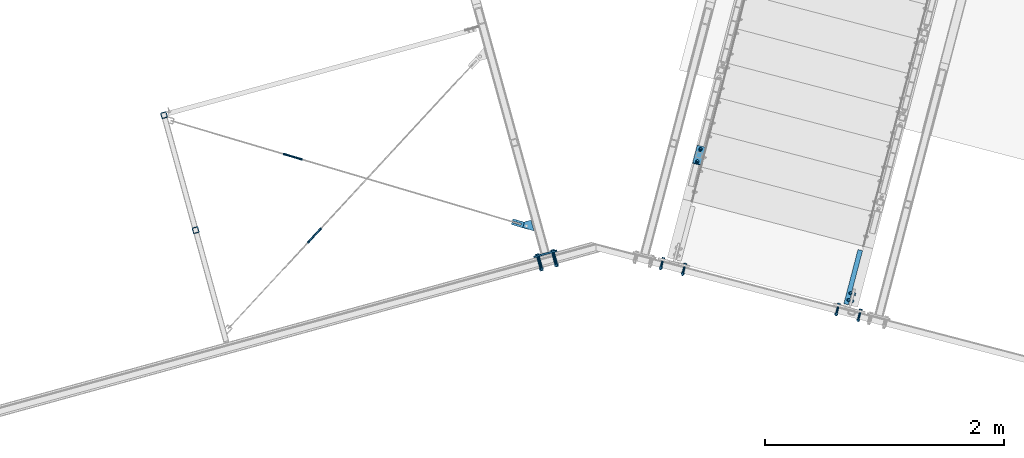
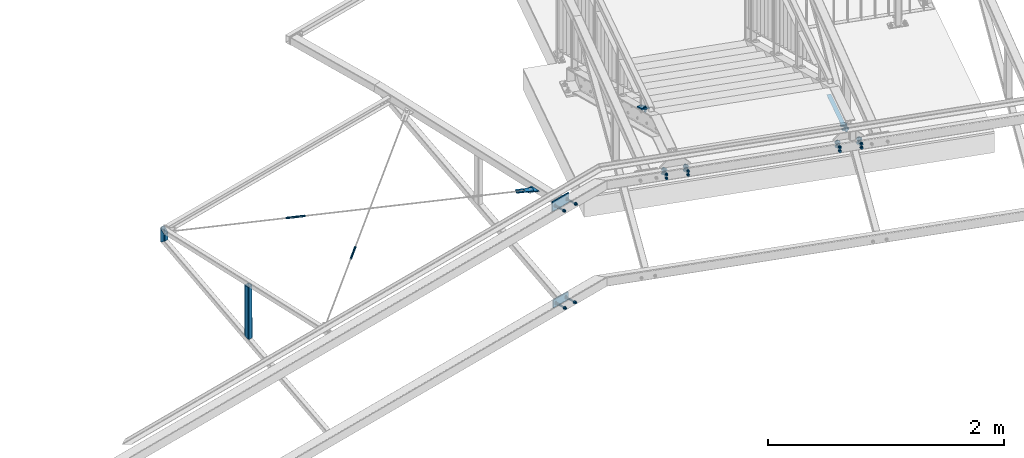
# One storey, part 87 of 169: 10 discrete accessories, 6 mechanical fasteners, 8 elements without a shape of their own.
"""IFC2X3 building model written with IfcOpenShell, lengths in millimetres."""

from ifc_helpers import new_model, si_unit, frame, frame_2d, origin_with_axes, origin_2d_with_axis, place, context, subcontext, project, spatial, polyline, circle_curve, parameter, trimmed, segment, composite_curve, rectangle, hollow_rectangle, circle, hollow_circle, l_section, outline, extrude, boolean, clip, halfspace, source, transform, mapped, material, type_object, element, aggregate, save


model = new_model("IFC2X3")

# Units and contexts
model_context = context("Model", 3, precision=1e-05, world=origin_with_axes())
body_context = subcontext(model_context, "Body", "Model", "MODEL_VIEW")
ifc_project = project(units=[si_unit("LENGTHUNIT", "METRE", prefix="MILLI"), si_unit("AREAUNIT", "SQUARE_METRE"), si_unit("VOLUMEUNIT", "CUBIC_METRE"), si_unit("MASSUNIT", "GRAM", prefix="KILO"), si_unit("TIMEUNIT", "SECOND"), si_unit("PLANEANGLEUNIT", "RADIAN"), si_unit("SOLIDANGLEUNIT", "STERADIAN"), si_unit("THERMODYNAMICTEMPERATUREUNIT", "DEGREE_CELSIUS"), si_unit("LUMINOUSINTENSITYUNIT", "LUMEN")], contexts=[model_context])

# Site, building, storey
site_placement = place(None, origin_with_axes())
site = spatial("IfcSite", under=ifc_project, at=site_placement, Name="Undefined", CompositionType="ELEMENT")
building_placement = place(site_placement, origin_with_axes())
building = spatial("IfcBuilding", under=site, at=building_placement, Name="Undefined", CompositionType="ELEMENT")
storey_placement = place(building_placement, origin_with_axes())
storey = spatial("IfcBuildingStorey", under=building, at=storey_placement, Name="Undefined", CompositionType="ELEMENT", Elevation=0.0)

# Assembly, discrete accessory
assembly_1_placement = place(storey_placement, origin_with_axes())
assembly_1 = element("IfcElementAssembly", 1, at=assembly_1_placement, inside=storey, Name="Steel Assembly", AssemblyPlace="NOTDEFINED", PredefinedType="RIGID_FRAME")
ifc_material_1 = material(Name="STEEL/S235")
discrete_accessory_type_1 = type_object("IfcDiscreteAccessoryType", Name="BLACHA")
discrete_accessory_1_placement = place(assembly_1_placement, frame((-10720.4577155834, 19023.4327080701, 13856.5260368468), z_axis=(0.111692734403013, 0.427781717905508, 0.896954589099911), x_axis=(-0.967563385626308, 0.252628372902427, -1.72000000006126e-07)))
discrete_accessory_1 = element("IfcDiscreteAccessory", 2, at=discrete_accessory_1_placement, type_object=discrete_accessory_type_1, material=ifc_material_1, Name="BLACHA", ObjectType="BL12*170", context=body_context, shape_type="SweptSolid", body=[
    extrude(outline(polyline([(70.0000000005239, 84.9999999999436), (70.0000000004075, -84.9999999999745), (-5.82076609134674e-11, -84.99999999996), (5.82076609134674e-11, 84.99999999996), (70.0000000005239, 84.9999999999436)])), frame((-1.81898942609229e-12, -1.81898940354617e-12, -5.99999999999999), z_axis=(0.0, 0.0, 1.0), x_axis=(1.0, 0.0, 0.0)), (0.0, 0.0, 1.0), 12.0),
])

assembly_2_placement = place(storey_placement, origin_with_axes())
assembly_2 = element("IfcElementAssembly", 3, at=assembly_2_placement, inside=storey, Name="Steel Assembly", AssemblyPlace="NOTDEFINED", PredefinedType="RIGID_FRAME")
discrete_accessory_2_placement = place(assembly_2_placement, frame((-12327.4616138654, 18452.0208834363, 13872.4458779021), z_axis=(0.013233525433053, -0.0481524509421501, 0.998752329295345), x_axis=(0.958527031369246, -0.283777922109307, -0.0263822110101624)))
discrete_accessory_2 = element("IfcDiscreteAccessory", 4, at=discrete_accessory_2_placement, type_object=discrete_accessory_type_1, material=ifc_material_1, Name="BLACHA", ObjectType="BL8*50", context=body_context, shape_type="SweptSolid", body=[
    extrude(outline(polyline([(0.0, 0.0), (150.000000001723, 4.00177668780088e-11), (150.000000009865, 50.0000000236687), (-2.8421709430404e-11, 50.0000000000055), (-1.33732100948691e-08, 32.1226425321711), (79.9999999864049, 32.1226425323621), (79.9999999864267, 17.8773594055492), (-1.33550202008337e-08, 17.8773594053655), (0.0, 0.0)])), frame((1.81942236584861e-12, -3.63797880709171e-12, -4.00000000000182), z_axis=(0.0, 0.0, 1.0), x_axis=(1.0, 0.0, 0.0)), (0.0, 0.0, 1.0), 8.0),
])

# Assembly, discrete accessories
assembly_3_placement = place(storey_placement, origin_with_axes())
assembly_3 = element("IfcElementAssembly", 5, at=assembly_3_placement, inside=storey, Name="Steel Assembly", AssemblyPlace="NOTDEFINED", PredefinedType="RIGID_FRAME")
discrete_accessory_3_placement = place(assembly_3_placement, frame((-12136.4292862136, 18398.030163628, 13859.301661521), z_axis=(0.013233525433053, -0.0481524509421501, 0.998752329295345), x_axis=(-0.264670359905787, 0.96304507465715, 0.0499378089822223)))
discrete_accessory_3 = element("IfcDiscreteAccessory", 6, at=discrete_accessory_3_placement, type_object=discrete_accessory_type_1, material=ifc_material_1, Name="BLACHA", ObjectType="BL8*80", context=body_context, shape_type="SweptSolid", body=[
    extrude(outline(polyline([(0.0, 0.0), (94.6373443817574, 8.25821189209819e-10), (94.6373443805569, 57.452823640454), (52.1845169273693, 83.8679275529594), (0.0, 0.0)])), frame((1.81942236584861e-12, -3.63797880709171e-12, -4.00000000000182), z_axis=(0.0, 0.0, 1.0), x_axis=(1.0, 0.0, 0.0)), (0.0, 0.0, 1.0), 8.0),
])
discrete_accessory_4_placement = place(assembly_3_placement, frame((-12042.2751780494, 18206.0370042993, 12862.1729257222), z_axis=(-0.265001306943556, 0.964248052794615, 0.0), x_axis=(-2.54700353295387e-10, 0.0, -1.0)))
discrete_accessory_4 = element("IfcDiscreteAccessory", 7, at=discrete_accessory_4_placement, type_object=discrete_accessory_type_1, material=ifc_material_1, Name="BLACHA", ObjectType="BL12*180", context=body_context, shape_type="SweptSolid", body=[
    extrude(outline(polyline([(80.0000000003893, 89.9999999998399), (80.0000000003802, -89.9999999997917), (6.18456397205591e-11, -90.0), (-6.3664629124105e-11, 90.0000000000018), (80.0000000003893, 89.9999999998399)])), frame((-1.81898942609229e-12, -1.81898940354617e-12, -5.99999999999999), z_axis=(0.0, 0.0, 1.0), x_axis=(1.0, 0.0, 0.0)), (0.0, 0.0, 1.0), 12.0),
])
discrete_accessory_5_placement = place(assembly_3_placement, frame((-11945.7623680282, 18232.5613200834, 13832.0942813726), z_axis=(-0.265001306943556, 0.964248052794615, 0.0), x_axis=(-0.96424813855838, -0.265000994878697, 1.68875885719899e-08)))
discrete_accessory_5 = element("IfcDiscreteAccessory", 8, at=discrete_accessory_5_placement, type_object=discrete_accessory_type_1, material=ifc_material_1, Name="BLACHA", ObjectType="BL12*100", context=body_context, shape_type="SweptSolid", body=[
    extrude(outline(polyline([(200.000000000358, -49.9999999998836), (2.75122147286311e-11, -50.0000000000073), (-2.8421709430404e-11, 50.0000000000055), (200.000000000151, 50.0000000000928), (200.000000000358, -49.9999999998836)])), frame((-1.81898942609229e-12, -1.81898940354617e-12, -5.99999999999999), z_axis=(0.0, 0.0, 1.0), x_axis=(1.0, 0.0, 0.0)), (0.0, 0.0, 1.0), 12.0),
])

assembly_4_placement = place(storey_placement, origin_with_axes())
assembly_4 = element("IfcElementAssembly", 9, at=assembly_4_placement, inside=storey, Name="Steel Assembly", AssemblyPlace="NOTDEFINED", PredefinedType="RIGID_FRAME")
ifc_material_2 = material(Name="STEEL/S355")
discrete_accessory_type_2 = type_object("IfcDiscreteAccessoryType", Name="BEAM")
discrete_accessory_6_placement = place(assembly_4_placement, frame((-14974.3762722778, 18404.2632703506, 13880.1838095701), z_axis=(-0.265001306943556, 0.964248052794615, 0.0), x_axis=(-2.54700353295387e-10, 0.0, -1.0)))
discrete_accessory_6 = element("IfcDiscreteAccessory", 10, at=discrete_accessory_6_placement, type_object=discrete_accessory_type_2, material=ifc_material_2, Name="BEAM", ObjectType="SHS50*4", context=body_context, shape_type="Clipping", body=[
    clip(clip(extrude(hollow_rectangle(XDim=50.0, YDim=50.0, WallThickness=4.0, InnerFilletRadius=4.0, OuterFilletRadius=8.0, at=origin_2d_with_axis()), frame((544.837429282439, 0.0, 0.0), z_axis=(-1.0, -3.46944695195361e-18, -1.38777878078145e-17), x_axis=(1.73472347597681e-18, -1.0, 0.0)), (0.0, 0.0, 1.0), 559.36), halfspace(frame((71.6032463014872, 0.000537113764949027, 873.786967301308), z_axis=(-0.885407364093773, 2.14840959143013e-05, -0.464815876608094), x_axis=(-1.9022240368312e-05, -0.999999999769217, -9.98602767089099e-06)), True)), halfspace(frame((-50.000323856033, -3.89425622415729e-07, 1000.00077448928), z_axis=(0.998752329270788, -1.61183526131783e-08, 0.0499378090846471), x_axis=(0.0, 1.0, 0.0)), True)),
])
discrete_accessory_7_placement = place(assembly_4_placement, frame((-15239.376840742, 19368.5091738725, 13981.4964469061), z_axis=(-0.265001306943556, 0.964248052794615, 0.0), x_axis=(-2.54700353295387e-10, 0.0, -1.0)))
discrete_accessory_7 = element("IfcDiscreteAccessory", 11, at=discrete_accessory_7_placement, type_object=discrete_accessory_type_2, material=ifc_material_2, Name="BEAM", ObjectType="SHS50*4", context=body_context, shape_type="Clipping", body=[
    clip(clip(extrude(hollow_rectangle(XDim=50.0, YDim=50.0, WallThickness=4.0, InnerFilletRadius=4.0, OuterFilletRadius=8.0, at=origin_2d_with_axis()), frame((176.699888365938, 0.0, 0.0), z_axis=(-1.0, -3.46944695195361e-18, -1.38777878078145e-17), x_axis=(1.73472347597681e-18, -1.0, 0.0)), (0.0, 0.0, 1.0), 192.22), halfspace(frame((119.783467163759, 0.00231056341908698, -25.0011554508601), z_axis=(-0.855828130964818, -2.39085282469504e-05, 0.5172602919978), x_axis=(4.59362126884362e-10, 0.999999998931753, 4.6222224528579e-05)), True)), halfspace(frame((-8.78615537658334e-07, -8.10133315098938e-06, 25.0000081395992), z_axis=(-0.689225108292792, 2.3570835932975e-07, -0.724547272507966), x_axis=(1.73472347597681e-18, -1.0, 0.0)), False)),
])
aggregate(assembly_4, [discrete_accessory_6, discrete_accessory_7])

# Assembly, discrete accessory
assembly_5_placement = place(storey_placement, origin_with_axes())
assembly_5 = element("IfcElementAssembly", 12, at=assembly_5_placement, inside=storey, Name="Steel Assembly", AssemblyPlace="NOTDEFINED", PredefinedType="RIGID_FRAME")
discrete_accessory_8_placement = place(assembly_5_placement, frame((-9401.14927571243, 18237.7511284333, 13980.4176078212), z_axis=(-0.967563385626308, 0.252628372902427, -1.72000000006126e-07), x_axis=(-0.252628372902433, -0.967563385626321, 0.0)))
discrete_accessory_8 = element("IfcDiscreteAccessory", 13, at=discrete_accessory_8_placement, type_object=discrete_accessory_type_2, material=ifc_material_1, Name="BEAM", ObjectType="L40*3", context=body_context, shape_type="SweptSolid", body=[
    extrude(l_section(Depth=40.0, Width=40.0, Thickness=3.0, FilletRadius=6.0, EdgeRadius=3.0, at=origin_2d_with_axis()), frame((469.999999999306, 0.0, 1.30451205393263e-14), z_axis=(-1.0, -3.46944695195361e-18, -1.38777878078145e-17), x_axis=(1.73472347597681e-18, -1.0, 0.0)), (0.0, 0.0, 1.0), 470.0),
])
aggregate(assembly_5, [discrete_accessory_8])

# Mechanical fastener
ifc_material_3 = material(Name="Undefined")
discrete_accessory_type_3 = type_object("IfcDiscreteAccessoryType", Name="Bolt assembly")
shared_shape_1 = source(origin_with_axes(), body_context, "Body", "SweptSolid", [
    extrude(outline(composite_curve([segment(polyline([(7.5, 7.5), (7.5, -7.5)]), True, "CONTINUOUS"), segment(trimmed(circle_curve(frame_2d((0.0, -7.5), x_axis=(1.0, 0.0)), 7.5), [parameter(0.0)], [parameter(3.14159265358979)], False, "PARAMETER"), True, "CONTINUOUS"), segment(polyline([(-7.5, -7.5), (-7.5, 7.5)]), True, "CONTINUOUS"), segment(trimmed(circle_curve(frame_2d((0.0, 7.5), x_axis=(-1.0, 0.0)), 7.5), [parameter(0.0)], [parameter(3.14159265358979)], False, "PARAMETER"), True, "DISCONTINUOUS")], self_intersect=False)), frame((0.0, 0.900000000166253, 0.0), z_axis=(0.0, 1.0, 0.0), x_axis=(1.0, 0.0, 0.0)), (0.0, 0.0, 1.0), 11.1),
    extrude(outline(composite_curve([segment(polyline([(-7.5, 7.5), (7.5, 7.5)]), True, "CONTINUOUS"), segment(trimmed(circle_curve(frame_2d((7.5, 0.0), x_axis=(0.0, 1.0)), 7.5), [parameter(0.0)], [parameter(3.14159265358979)], False, "PARAMETER"), True, "CONTINUOUS"), segment(polyline([(7.5, -7.5), (-7.5, -7.5)]), True, "CONTINUOUS"), segment(trimmed(circle_curve(frame_2d((-7.5, 0.0), x_axis=(0.0, -1.0)), 7.5), [parameter(0.0)], [parameter(3.14159265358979)], False, "PARAMETER"), True, "DISCONTINUOUS")], self_intersect=False)), frame((0.0, -11.9000000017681, 0.0), z_axis=(0.0, 1.0, 0.0), x_axis=(1.0, 0.0, 0.0)), (0.0, 0.0, 1.0), 12.0),
    extrude(outline(polyline([(10.39230484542, 0.0), (5.19615242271, 9.00000000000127), (-5.19615242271, 9.00000000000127), (-10.39230484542, 0.0), (-5.19615242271, -9.00000000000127), (5.19615242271, -9.00000000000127), (10.39230484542, 0.0)])), frame((0.0, -22.5000000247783, 0.0), z_axis=(0.0, 1.0, 0.0), x_axis=(1.0, 0.0, 0.0)), (0.0, 0.0, 1.0), 7.5),
    extrude(circle(Radius=6.0, at=origin_2d_with_axis()), frame((0.0, -15.0000000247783, 0.0), z_axis=(0.0, 1.0, 0.0), x_axis=(1.0, 0.0, 0.0)), (0.0, 0.0, 1.0), 45.0),
    extrude(circle(Radius=12.0, at=origin_2d_with_axis()), frame((0.0, -15.0000000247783, 0.0), z_axis=(0.0, 1.0, 0.0), x_axis=(1.0, 0.0, 0.0)), (0.0, 0.0, 1.0), 3.0),
    extrude(circle(Radius=12.0, at=origin_2d_with_axis()), frame((0.0, 12.000000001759, 0.0), z_axis=(0.0, 1.0, 0.0), x_axis=(1.0, 0.0, 0.0)), (0.0, 0.0, 1.0), 3.0),
    extrude(outline(polyline([(10.96965511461, 0.0), (5.484827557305, 9.50000000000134), (-5.484827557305, 9.50000000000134), (-10.96965511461, 0.0), (-5.484827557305, -9.50000000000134), (5.484827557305, -9.50000000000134), (10.96965511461, 0.0)])), frame((0.0, 14.9999935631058, 0.0), z_axis=(0.0, 1.0, 0.0), x_axis=(1.0, 0.0, 0.0)), (0.0, 0.0, 1.0), 10.0),
])
mechanical_fastener_1_placement = place(assembly_1_placement, frame((-10779.181675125, 19036.0237201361, 13851.1443093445), z_axis=(0.226596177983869, 0.867860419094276, -0.442122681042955), x_axis=(0.967563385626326, -0.252628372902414, 0.0)))
mechanical_fastener_1 = element("IfcMechanicalFastener", 14, at=mechanical_fastener_1_placement, type_object=discrete_accessory_type_3, material=ifc_material_3, Name="Bolt assembly", NominalDiameter=12.0, NominalLength=45.0, context=body_context, shape_type="MappedRepresentation", body=[
    mapped(shared_shape_1, transform((24.9999999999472, 0.0, -60.0000000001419))),
    mapped(shared_shape_1, transform((24.9999999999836, -3.54702933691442e-11, 60.0000000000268))),
])

aggregate(assembly_1, [mechanical_fastener_1, discrete_accessory_1])

# Assembly, mechanical fastener
assembly_6_placement = place(storey_placement, origin_with_axes())
assembly_6 = element("IfcElementAssembly", 15, at=assembly_6_placement, inside=storey, Name="Steel Assembly", AssemblyPlace="NOTDEFINED", PredefinedType="RIGID_FRAME")
shared_shape_2 = source(origin_with_axes(), body_context, "Body", "SweptSolid", [
    extrude(circle(Radius=9.5, at=origin_2d_with_axis()), frame((0.0, -0.100000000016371, 0.0), z_axis=(0.0, 1.0, 0.0), x_axis=(1.0, 0.0, 0.0)), (0.0, 0.0, 1.0), 7.6),
    extrude(outline(composite_curve([segment(polyline([(-20.0, 9.5), (20.0, 9.5)]), True, "CONTINUOUS"), segment(trimmed(circle_curve(frame_2d((20.0, 0.0), x_axis=(0.0, 1.0)), 9.5), [parameter(0.0)], [parameter(3.14159265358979)], False, "PARAMETER"), True, "CONTINUOUS"), segment(polyline([(20.0, -9.5), (-20.0, -9.5)]), True, "CONTINUOUS"), segment(trimmed(circle_curve(frame_2d((-20.0, 0.0), x_axis=(0.0, -1.0)), 9.5), [parameter(0.0)], [parameter(3.14159265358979)], False, "PARAMETER"), True, "DISCONTINUOUS")], self_intersect=False)), frame((0.0, -15.899999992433, 0.0), z_axis=(0.0, 1.0, 0.0), x_axis=(1.0, 0.0, 0.0)), (0.0, 0.0, 1.0), 16.0),
    extrude(outline(polyline([(13.85640646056, 0.0), (6.92820323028, 12.0000000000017), (-6.92820323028, 12.0000000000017), (-13.85640646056, 0.0), (-6.92820323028, -12.0000000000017), (6.92820323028, -12.0000000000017), (13.85640646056, 0.0)])), frame((0.0, -28.999999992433, 0.0), z_axis=(0.0, 1.0, 0.0), x_axis=(1.0, 0.0, 0.0)), (0.0, 0.0, 1.0), 10.0),
    extrude(circle(Radius=8.0, at=origin_2d_with_axis()), frame((0.0, -18.999999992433, 0.0), z_axis=(0.0, 1.0, 0.0), x_axis=(1.0, 0.0, 0.0)), (0.0, 0.0, 1.0), 50.0),
    extrude(circle(Radius=15.0, at=origin_2d_with_axis()), frame((0.0, -18.999999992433, 0.0), z_axis=(0.0, 1.0, 0.0), x_axis=(1.0, 0.0, 0.0)), (0.0, 0.0, 1.0), 3.0),
    extrude(circle(Radius=15.0, at=origin_2d_with_axis()), frame((0.0, 7.49999988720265, 0.0), z_axis=(0.0, 1.0, 0.0), x_axis=(1.0, 0.0, 0.0)), (0.0, 0.0, 1.0), 3.0),
    extrude(outline(polyline([(13.85640646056, 0.0), (6.92820323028, 12.0000000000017), (-6.92820323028, 12.0000000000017), (-13.85640646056, 0.0), (-6.92820323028, -12.0000000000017), (6.92820323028, -12.0000000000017), (13.85640646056, 0.0)])), frame((0.0, 10.500000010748, 0.0), z_axis=(0.0, 1.0, 0.0), x_axis=(1.0, 0.0, 0.0)), (0.0, 0.0, 1.0), 13.0),
])
mechanical_fastener_2_placement = place(assembly_6_placement, frame((-9475.58744430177, 17843.7983625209, 13925.4176077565), z_axis=(-0.252628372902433, -0.967563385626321, 0.0), x_axis=(0.0, 0.0, 1.0)))
mechanical_fastener_2 = element("IfcMechanicalFastener", 16, at=mechanical_fastener_2_placement, type_object=discrete_accessory_type_3, material=ifc_material_3, Name="Bolt assembly", NominalDiameter=16.0, NominalLength=50.0, context=body_context, shape_type="MappedRepresentation", body=[
    mapped(shared_shape_2, transform((0.0, -1.45519152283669e-11, -30.0000000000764))),
    mapped(shared_shape_2, transform((0.0, 1.45519152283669e-11, 30.0000000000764))),
])
aggregate(assembly_6, [mechanical_fastener_2])

# Assembly, discrete accessory
assembly_7_placement = place(storey_placement, origin_with_axes())
assembly_7 = element("IfcElementAssembly", 17, at=assembly_7_placement, inside=storey, Name="Steel Assembly", AssemblyPlace="NOTDEFINED", PredefinedType="RIGID_FRAME")
discrete_accessory_type_4 = type_object("IfcDiscreteAccessoryType", Name="TURNBUCKLE")
discrete_accessory_9_placement = place(assembly_7_placement, frame((-14035.7071833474, 18297.8453389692, 13887.6470250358), z_axis=(0.734134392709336, -0.677679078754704, -0.0423999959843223), x_axis=(0.678875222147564, 0.733779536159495, 0.0263822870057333)))
discrete_accessory_9 = element("IfcDiscreteAccessory", 18, at=discrete_accessory_9_placement, type_object=discrete_accessory_type_4, material=ifc_material_1, Name="TURNBUCKLE", ObjectType="PD20*5", context=body_context, shape_type="CSG", body=[
    boolean("DIFFERENCE", extrude(hollow_circle(Radius=10.0, WallThickness=5.0, at=origin_2d_with_axis()), frame((169.999999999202, 0.0, -3.62691994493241e-12), z_axis=(-1.0, -3.46944695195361e-18, -1.38777878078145e-17), x_axis=(1.73472347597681e-18, -1.0, 0.0)), (0.0, 0.0, 1.0), 170.0), extrude(rectangle(XDim=9.0, YDim=40.0, at=origin_2d_with_axis()), frame((139.999999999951, -4.15525391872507e-11, -3.09228198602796e-11), z_axis=(-1.0, -3.46944695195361e-18, -1.38777878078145e-17), x_axis=(1.73472347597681e-18, -1.0, 0.0)), (0.0, 0.0, 1.0), 110.0)),
])
aggregate(assembly_7, [discrete_accessory_9])

# Discrete accessory
discrete_accessory_10_placement = place(assembly_2_placement, frame((-14240.9249756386, 19044.5628217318, 13926.3673674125), z_axis=(-0.284694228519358, -0.957680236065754, -0.042400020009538), x_axis=(0.958527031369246, -0.283777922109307, -0.0263822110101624)))
discrete_accessory_10 = element("IfcDiscreteAccessory", 19, at=discrete_accessory_10_placement, type_object=discrete_accessory_type_4, material=ifc_material_1, Name="TURNBUCKLE", ObjectType="PD20*5", context=body_context, shape_type="CSG", body=[
    boolean("DIFFERENCE", extrude(hollow_circle(Radius=10.0, WallThickness=5.0, at=origin_2d_with_axis()), frame((169.999999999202, 0.0, -3.62691994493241e-12), z_axis=(-1.0, -3.46944695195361e-18, -1.38777878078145e-17), x_axis=(1.73472347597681e-18, -1.0, 0.0)), (0.0, 0.0, 1.0), 170.0), extrude(rectangle(XDim=9.0, YDim=40.0, at=origin_2d_with_axis()), frame((139.999999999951, -4.15525391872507e-11, -3.09228198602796e-11), z_axis=(-1.0, -3.46944695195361e-18, -1.38777878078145e-17), x_axis=(1.73472347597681e-18, -1.0, 0.0)), (0.0, 0.0, 1.0), 110.0)),
])

aggregate(assembly_2, [discrete_accessory_10, discrete_accessory_2])

# Mechanical fastener
shared_shape_3 = source(origin_with_axes(), body_context, "Body", "SweptSolid", [
    extrude(circle(Radius=9.5, at=origin_2d_with_axis()), frame((0.0, 3.89999843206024, 0.0), z_axis=(0.0, 1.0, 0.0), x_axis=(1.0, 0.0, 0.0)), (0.0, 0.0, 1.0), 100.1),
    extrude(outline(composite_curve([segment(polyline([(-10.0, 9.5), (10.0, 9.5)]), True, "CONTINUOUS"), segment(trimmed(circle_curve(frame_2d((10.0, 0.0), x_axis=(0.0, 1.0)), 9.5), [parameter(0.0)], [parameter(3.14159265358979)], False, "PARAMETER"), True, "CONTINUOUS"), segment(polyline([(10.0, -9.5), (-10.0, -9.5)]), True, "CONTINUOUS"), segment(trimmed(circle_curve(frame_2d((-10.0, 0.0), x_axis=(0.0, -1.0)), 9.5), [parameter(0.0)], [parameter(3.14159265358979)], False, "PARAMETER"), True, "DISCONTINUOUS")], self_intersect=False)), frame((0.0, -8.89999998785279, 0.0), z_axis=(0.0, 1.0, 0.0), x_axis=(1.0, 0.0, 0.0)), (0.0, 0.0, 1.0), 12.0),
    extrude(outline(polyline([(13.85640646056, 0.0), (6.92820323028, 12.0000000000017), (-6.92820323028, 12.0000000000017), (-13.85640646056, 0.0), (-6.92820323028, -12.0000000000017), (6.92820323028, -12.0000000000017), (13.85640646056, 0.0)])), frame((0.0, -21.9999999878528, 0.0), z_axis=(0.0, 1.0, 0.0), x_axis=(1.0, 0.0, 0.0)), (0.0, 0.0, 1.0), 10.0),
    extrude(circle(Radius=8.0, at=origin_2d_with_axis()), frame((0.0, -11.9999999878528, 0.0), z_axis=(0.0, 1.0, 0.0), x_axis=(1.0, 0.0, 0.0)), (0.0, 0.0, 1.0), 140.0),
    extrude(circle(Radius=15.0, at=origin_2d_with_axis()), frame((0.0, -11.9999999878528, 0.0), z_axis=(0.0, 1.0, 0.0), x_axis=(1.0, 0.0, 0.0)), (0.0, 0.0, 1.0), 3.0),
    extrude(circle(Radius=15.0, at=origin_2d_with_axis()), frame((0.0, 103.999998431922, 0.0), z_axis=(0.0, 1.0, 0.0), x_axis=(1.0, 0.0, 0.0)), (0.0, 0.0, 1.0), 3.0),
    extrude(outline(polyline([(13.85640646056, 0.0), (6.92820323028, 12.0000000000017), (-6.92820323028, 12.0000000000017), (-13.85640646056, 0.0), (-6.92820323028, -12.0000000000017), (6.92820323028, -12.0000000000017), (13.85640646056, 0.0)])), frame((0.0, 106.999998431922, 0.0), z_axis=(0.0, 1.0, 0.0), x_axis=(1.0, 0.0, 0.0)), (0.0, 0.0, 1.0), 13.0),
])
mechanical_fastener_3_placement = place(assembly_3_placement, frame((-12041.4801741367, 18203.1442601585, 12822.1729263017), z_axis=(0.964248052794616, 0.265001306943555, 0.0), x_axis=(0.0, 0.0, 1.0)))
mechanical_fastener_3 = element("IfcMechanicalFastener", 20, at=mechanical_fastener_3_placement, type_object=discrete_accessory_type_3, material=ifc_material_3, Name="Bolt assembly", NominalDiameter=16.0, NominalLength=140.0, context=body_context, shape_type="MappedRepresentation", body=[
    mapped(shared_shape_3, transform((1.18234311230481e-11, 9.20081788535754e-11, -60.0000000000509))),
    mapped(shared_shape_3, transform((-1.2732925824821e-11, -9.20223897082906e-11, 60.0000000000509))),
])

shared_shape_4 = source(origin_with_axes(), body_context, "Body", "SweptSolid", [
    extrude(circle(Radius=9.5, at=origin_2d_with_axis()), frame((0.0, 3.89999843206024, 0.0), z_axis=(0.0, 1.0, 0.0), x_axis=(1.0, 0.0, 0.0)), (0.0, 0.0, 1.0), 100.1),
    extrude(outline(composite_curve([segment(polyline([(9.5, 10.0), (9.5, -10.0)]), True, "CONTINUOUS"), segment(trimmed(circle_curve(frame_2d((0.0, -10.0), x_axis=(1.0, 0.0)), 9.5), [parameter(0.0)], [parameter(3.14159265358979)], False, "PARAMETER"), True, "CONTINUOUS"), segment(polyline([(-9.5, -10.0), (-9.5, 10.0)]), True, "CONTINUOUS"), segment(trimmed(circle_curve(frame_2d((0.0, 10.0), x_axis=(-1.0, 0.0)), 9.5), [parameter(0.0)], [parameter(3.14159265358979)], False, "PARAMETER"), True, "DISCONTINUOUS")], self_intersect=False)), frame((0.0, -8.89999998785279, 0.0), z_axis=(0.0, 1.0, 0.0), x_axis=(1.0, 0.0, 0.0)), (0.0, 0.0, 1.0), 12.0),
    extrude(outline(polyline([(13.85640646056, 0.0), (6.92820323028, 12.0000000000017), (-6.92820323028, 12.0000000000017), (-13.85640646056, 0.0), (-6.92820323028, -12.0000000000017), (6.92820323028, -12.0000000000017), (13.85640646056, 0.0)])), frame((0.0, -21.9999999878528, 0.0), z_axis=(0.0, 1.0, 0.0), x_axis=(1.0, 0.0, 0.0)), (0.0, 0.0, 1.0), 10.0),
    extrude(circle(Radius=8.0, at=origin_2d_with_axis()), frame((0.0, -11.9999999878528, 0.0), z_axis=(0.0, 1.0, 0.0), x_axis=(1.0, 0.0, 0.0)), (0.0, 0.0, 1.0), 140.0),
    extrude(circle(Radius=15.0, at=origin_2d_with_axis()), frame((0.0, -11.9999999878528, 0.0), z_axis=(0.0, 1.0, 0.0), x_axis=(1.0, 0.0, 0.0)), (0.0, 0.0, 1.0), 3.0),
    extrude(circle(Radius=15.0, at=origin_2d_with_axis()), frame((0.0, 103.999998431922, 0.0), z_axis=(0.0, 1.0, 0.0), x_axis=(1.0, 0.0, 0.0)), (0.0, 0.0, 1.0), 3.0),
    extrude(outline(polyline([(13.85640646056, 0.0), (6.92820323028, 12.0000000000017), (-6.92820323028, 12.0000000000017), (-13.85640646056, 0.0), (-6.92820323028, -12.0000000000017), (6.92820323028, -12.0000000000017), (13.85640646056, 0.0)])), frame((0.0, 106.999998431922, 0.0), z_axis=(0.0, 1.0, 0.0), x_axis=(1.0, 0.0, 0.0)), (0.0, 0.0, 1.0), 13.0),
])
mechanical_fastener_4_placement = place(assembly_3_placement, frame((-12108.8895335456, 18184.61835531, 13832.0942813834), z_axis=(-2.54700353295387e-10, 0.0, -1.0), x_axis=(0.964248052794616, 0.265001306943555, 0.0)))
mechanical_fastener_4 = element("IfcMechanicalFastener", 21, at=mechanical_fastener_4_placement, type_object=discrete_accessory_type_3, material=ifc_material_3, Name="Bolt assembly", NominalDiameter=16.0, NominalLength=140.0, context=body_context, shape_type="MappedRepresentation", body=[
    mapped(shared_shape_4, transform((0.0, 0.0, 0.0))),
    mapped(shared_shape_4, transform((139.999999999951, -4.15525391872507e-11, -3.09228198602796e-11))),
])

aggregate(assembly_3, [discrete_accessory_3, mechanical_fastener_3, discrete_accessory_4, mechanical_fastener_4, discrete_accessory_5])

# Assembly, mechanical fasteners
assembly_8_placement = place(storey_placement, origin_with_axes())
assembly_8 = element("IfcElementAssembly", 22, at=assembly_8_placement, inside=storey, Name="Steel Assembly", AssemblyPlace="NOTDEFINED", PredefinedType="RIGID_FRAME")
shared_shape_5 = source(origin_with_axes(), body_context, "Body", "SweptSolid", [
    extrude(outline(composite_curve([segment(polyline([(-15.0, 9.5), (15.0, 9.5)]), True, "CONTINUOUS"), segment(trimmed(circle_curve(frame_2d((15.0, 0.0), x_axis=(0.0, 1.0)), 9.5), [parameter(0.0)], [parameter(3.14159265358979)], False, "PARAMETER"), True, "CONTINUOUS"), segment(polyline([(15.0, -9.5), (-15.0, -9.5)]), True, "CONTINUOUS"), segment(trimmed(circle_curve(frame_2d((-15.0, 0.0), x_axis=(0.0, -1.0)), 9.5), [parameter(0.0)], [parameter(3.14159265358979)], False, "PARAMETER"), True, "DISCONTINUOUS")], self_intersect=False)), frame((0.0, -15.8932653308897, 0.0), z_axis=(0.0, 1.0, 0.0), x_axis=(1.0, 0.0, 0.0)), (0.0, 0.0, 1.0), 16.0),
    extrude(circle(Radius=9.5, at=origin_2d_with_axis()), frame((0.0, -0.0932662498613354, 0.0), z_axis=(0.0, 1.0, 0.0), x_axis=(1.0, 0.0, 0.0)), (0.0, 0.0, 1.0), 60.1),
    extrude(outline(polyline([(13.85640646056, 0.0), (6.92820323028, 12.0000000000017), (-6.92820323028, 12.0000000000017), (-13.85640646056, 0.0), (-6.92820323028, -12.0000000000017), (6.92820323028, -12.0000000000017), (13.85640646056, 0.0)])), frame((0.0, -28.9932653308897, 0.0), z_axis=(0.0, 1.0, 0.0), x_axis=(1.0, 0.0, 0.0)), (0.0, 0.0, 1.0), 10.0),
    extrude(circle(Radius=8.0, at=origin_2d_with_axis()), frame((0.0, -18.9932653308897, 0.0), z_axis=(0.0, 1.0, 0.0), x_axis=(1.0, 0.0, 0.0)), (0.0, 0.0, 1.0), 100.0),
    extrude(circle(Radius=15.0, at=origin_2d_with_axis()), frame((0.0, -18.9932653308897, 0.0), z_axis=(0.0, 1.0, 0.0), x_axis=(1.0, 0.0, 0.0)), (0.0, 0.0, 1.0), 3.0),
    extrude(circle(Radius=15.0, at=origin_2d_with_axis()), frame((0.0, 60.0067337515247, 0.0), z_axis=(0.0, 1.0, 0.0), x_axis=(1.0, 0.0, 0.0)), (0.0, 0.0, 1.0), 3.0),
    extrude(outline(polyline([(13.85640646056, 0.0), (6.92820323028, 12.0000000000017), (-6.92820323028, 12.0000000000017), (-13.85640646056, 0.0), (-6.92820323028, -12.0000000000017), (6.92820323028, -12.0000000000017), (13.85640646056, 0.0)])), frame((0.0, 63.0067337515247, 0.0), z_axis=(0.0, 1.0, 0.0), x_axis=(1.0, 0.0, 0.0)), (0.0, 0.0, 1.0), 13.0),
])
mechanical_fastener_5_placement = place(assembly_8_placement, frame((-9586.27480883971, 17764.1854937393, 13830.5514088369), z_axis=(-0.000298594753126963, 7.79629355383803e-05, -0.999999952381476), x_axis=(0.967561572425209, -0.252635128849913, -0.000308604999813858)))
mechanical_fastener_5 = element("IfcMechanicalFastener", 23, at=mechanical_fastener_5_placement, type_object=discrete_accessory_type_3, material=ifc_material_3, Name="Bolt assembly", NominalDiameter=16.0, NominalLength=100.0, context=body_context, shape_type="MappedRepresentation", body=[
    mapped(shared_shape_5, transform((0.0, 0.0, -20.0))),
    mapped(shared_shape_5, transform((189.999999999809, -1.03682396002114e-10, -20.0000000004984))),
    mapped(shared_shape_5, transform((1.63709046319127e-11, 1.81898940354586e-11, 19.9999999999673))),
    mapped(shared_shape_5, transform((189.999999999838, -6.73026079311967e-11, 19.9999999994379))),
])
shared_shape_6 = source(origin_with_axes(), body_context, "Body", "SweptSolid", [
    extrude(outline(composite_curve([segment(polyline([(-15.0, 9.5), (15.0, 9.5)]), True, "CONTINUOUS"), segment(trimmed(circle_curve(frame_2d((15.0, 0.0), x_axis=(0.0, 1.0)), 9.5), [parameter(0.0)], [parameter(3.14159265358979)], False, "PARAMETER"), True, "CONTINUOUS"), segment(polyline([(15.0, -9.5), (-15.0, -9.5)]), True, "CONTINUOUS"), segment(trimmed(circle_curve(frame_2d((-15.0, 0.0), x_axis=(0.0, -1.0)), 9.5), [parameter(0.0)], [parameter(3.14159265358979)], False, "PARAMETER"), True, "DISCONTINUOUS")], self_intersect=False)), frame((0.0, 0.0932652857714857, 0.0), z_axis=(0.0, 1.0, 0.0), x_axis=(1.0, 0.0, 0.0)), (0.0, 0.0, 1.0), 16.0),
    extrude(circle(Radius=9.5, at=origin_2d_with_axis()), frame((0.0, 15.893266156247, 0.0), z_axis=(0.0, 1.0, 0.0), x_axis=(1.0, 0.0, 0.0)), (0.0, 0.0, 1.0), 54.1),
    extrude(outline(polyline([(13.85640646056, 0.0), (6.92820323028, 12.0000000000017), (-6.92820323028, 12.0000000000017), (-13.85640646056, 0.0), (-6.92820323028, -12.0000000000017), (6.92820323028, -12.0000000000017), (13.85640646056, 0.0)])), frame((0.0, -13.0067347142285, 0.0), z_axis=(0.0, 1.0, 0.0), x_axis=(1.0, 0.0, 0.0)), (0.0, 0.0, 1.0), 10.0),
    extrude(circle(Radius=8.0, at=origin_2d_with_axis()), frame((0.0, -3.00673471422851, 0.0), z_axis=(0.0, 1.0, 0.0), x_axis=(1.0, 0.0, 0.0)), (0.0, 0.0, 1.0), 100.0),
    extrude(circle(Radius=15.0, at=origin_2d_with_axis()), frame((0.0, -3.00673471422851, 0.0), z_axis=(0.0, 1.0, 0.0), x_axis=(1.0, 0.0, 0.0)), (0.0, 0.0, 1.0), 3.0),
    extrude(circle(Radius=15.0, at=origin_2d_with_axis()), frame((0.0, 69.9932661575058, 0.0), z_axis=(0.0, 1.0, 0.0), x_axis=(1.0, 0.0, 0.0)), (0.0, 0.0, 1.0), 3.0),
    extrude(outline(polyline([(13.85640646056, 0.0), (6.92820323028, 12.0000000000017), (-6.92820323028, 12.0000000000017), (-13.85640646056, 0.0), (-6.92820323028, -12.0000000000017), (6.92820323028, -12.0000000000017), (13.85640646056, 0.0)])), frame((0.0, 72.9932661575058, 0.0), z_axis=(0.0, 1.0, 0.0), x_axis=(1.0, 0.0, 0.0)), (0.0, 0.0, 1.0), 13.0),
])
mechanical_fastener_6_placement = place(assembly_8_placement, frame((-10870.0928793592, 18115.9096349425, 13830.5514088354), z_axis=(-0.000298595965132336, 7.79622519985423e-05, 0.999999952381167), x_axis=(-0.967561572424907, 0.252635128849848, -0.000308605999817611)))
mechanical_fastener_6 = element("IfcMechanicalFastener", 24, at=mechanical_fastener_6_placement, type_object=discrete_accessory_type_3, material=ifc_material_3, Name="Bolt assembly", NominalDiameter=16.0, NominalLength=100.0, context=body_context, shape_type="MappedRepresentation", body=[
    mapped(shared_shape_6, transform((0.0, 0.0, -20.0))),
    mapped(shared_shape_6, transform((189.999999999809, -1.03682396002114e-10, -20.0000000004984))),
    mapped(shared_shape_6, transform((1.63709046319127e-11, 1.81898940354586e-11, 19.9999999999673))),
    mapped(shared_shape_6, transform((189.999999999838, -6.73026079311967e-11, 19.9999999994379))),
])
aggregate(assembly_8, [mechanical_fastener_5, mechanical_fastener_6])

save(model, "model.ifc")
